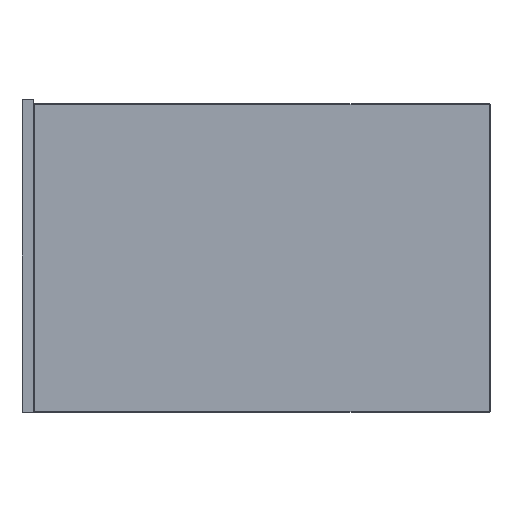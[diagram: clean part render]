
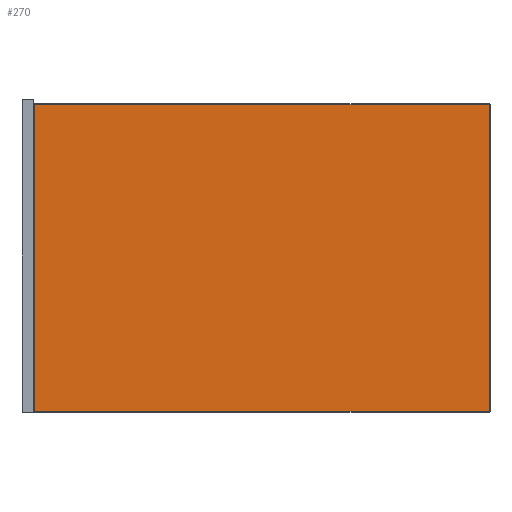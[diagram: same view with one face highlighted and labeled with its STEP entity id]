
A CAD part, left-side view. The second image highlights one B-rep face of the part: STEP entity #270.
In plain terms, the highlighted planar face has unit normal (-1, 0, 0) as drawn and (0, 0, -1) by its records, which use the part's own axes.
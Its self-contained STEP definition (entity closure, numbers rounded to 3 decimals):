
#79 = CARTESIAN_POINT ( 'NONE',  ( -197.5, -291., 0. ) ) ;
#269 = DIRECTION ( 'NONE',  ( -1., 0., 0. ) ) ;
#270 = ADVANCED_FACE ( 'NONE', ( #2591 ), #1068, .T. ) ;
#355 = DIRECTION ( 'NONE',  ( -1., 0., 0. ) ) ;
#370 = LINE ( 'NONE', #2198, #2097 ) ;
#638 = CARTESIAN_POINT ( 'NONE',  ( 196.5, -292., 0. ) ) ;
#659 = VERTEX_POINT ( 'NONE', #2758 ) ;
#777 = CARTESIAN_POINT ( 'NONE',  ( -196.5, 292., 0. ) ) ;
#869 = DIRECTION ( 'NONE',  ( 1., 0., 0. ) ) ;
#873 = VERTEX_POINT ( 'NONE', #3376 ) ;
#1023 = ORIENTED_EDGE ( 'NONE', *, *, #1249, .T. ) ;
#1048 = DIRECTION ( 'NONE',  ( 0., 0., -1. ) ) ;
#1068 = PLANE ( 'NONE',  #2575 ) ;
#1171 = ORIENTED_EDGE ( 'NONE', *, *, #2272, .T. ) ;
#1249 = EDGE_CURVE ( 'NONE', #2356, #659, #2707, .T. ) ;
#1345 = CARTESIAN_POINT ( 'NONE',  ( 0., 0., 0. ) ) ;
#1358 = VERTEX_POINT ( 'NONE', #1371 ) ;
#1371 = CARTESIAN_POINT ( 'NONE',  ( -196.5, 291., 0. ) ) ;
#1472 = VECTOR ( 'NONE', #2109, 1000. ) ;
#1723 = EDGE_CURVE ( 'NONE', #1358, #873, #370, .T. ) ;
#1728 = ORIENTED_EDGE ( 'NONE', *, *, #3299, .T. ) ;
#1877 = EDGE_LOOP ( 'NONE', ( #1171, #2667, #1728, #1023 ) ) ;
#2043 = LINE ( 'NONE', #777, #1472 ) ;
#2060 = CARTESIAN_POINT ( 'NONE',  ( 196.5, -291., 0. ) ) ;
#2097 = VECTOR ( 'NONE', #869, 1000. ) ;
#2109 = DIRECTION ( 'NONE',  ( 0., 1., 0. ) ) ;
#2198 = CARTESIAN_POINT ( 'NONE',  ( 197.5, 291., 0. ) ) ;
#2272 = EDGE_CURVE ( 'NONE', #659, #1358, #2043, .T. ) ;
#2356 = VERTEX_POINT ( 'NONE', #2060 ) ;
#2575 = AXIS2_PLACEMENT_3D ( 'NONE', #1345, #1048, #269 ) ;
#2591 = FACE_OUTER_BOUND ( 'NONE', #1877, .T. ) ;
#2667 = ORIENTED_EDGE ( 'NONE', *, *, #1723, .T. ) ;
#2682 = VECTOR ( 'NONE', #2936, 1000. ) ;
#2707 = LINE ( 'NONE', #79, #2775 ) ;
#2758 = CARTESIAN_POINT ( 'NONE',  ( -196.5, -291., 0. ) ) ;
#2775 = VECTOR ( 'NONE', #355, 1000. ) ;
#2936 = DIRECTION ( 'NONE',  ( 0., -1., 0. ) ) ;
#2990 = LINE ( 'NONE', #638, #2682 ) ;
#3299 = EDGE_CURVE ( 'NONE', #873, #2356, #2990, .T. ) ;
#3376 = CARTESIAN_POINT ( 'NONE',  ( 196.5, 291., 0. ) ) ;
